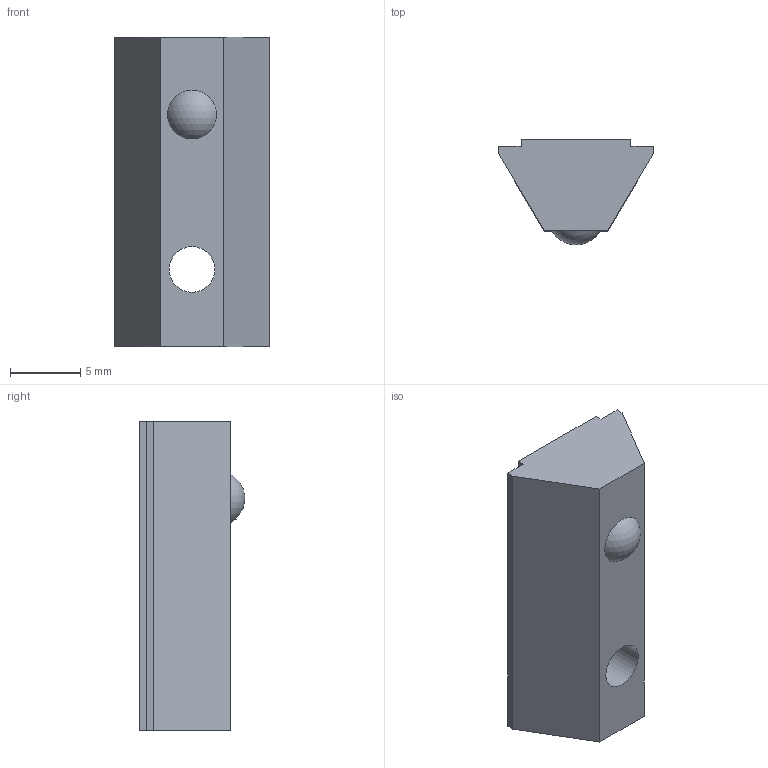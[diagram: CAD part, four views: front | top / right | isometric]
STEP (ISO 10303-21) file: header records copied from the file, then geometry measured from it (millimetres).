
FILE_DESCRIPTION((''),'2;1');
FILE_NAME('E:\catalogue and flyer\Profile catalogue 2015\Accessories JE info\Accessories-JE step file 31MAr16\JE-HRN4-8_3030.stp','2016-03-31T16:04:00',('h029'),(''),'Autodesk Inventor 11','Autodesk Inventor 11','');
FILE_SCHEMA(('AUTOMOTIVE_DESIGN { 1 0 10303 214 1 1 1 1 }'));
Length unit declared in the file: millimetre
Products named in the file (1): JE-HRN4-8_3030
Bounding box: 11 x 7.49 x 22 mm (x, y, z)
Volume: 1096.1 mm3; surface area: 823 mm2
Topology: 1 solids, 1 shells, 14 faces, 35 edges, 24 vertices
Faces by surface type: plane 12, sphere 1, bspline 1
Entity records: 444 total; most frequent: CARTESIAN_POINT 88, ORIENTED_EDGE 66, DIRECTION 64, EDGE_CURVE 33, VECTOR 30, LINE 30, VERTEX_POINT 23, EDGE_LOOP 18
